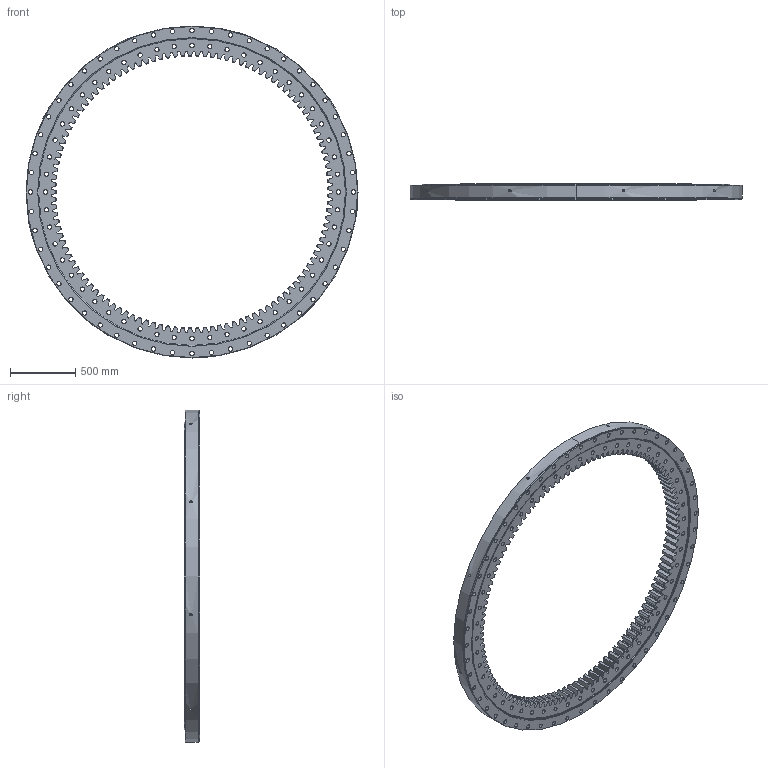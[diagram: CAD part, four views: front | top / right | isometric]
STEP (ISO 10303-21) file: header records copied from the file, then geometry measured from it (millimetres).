
FILE_DESCRIPTION (( 'STEP AP214' ), '1' );
FILE_NAME ('SM2145-1-2549AA.STEP', '2022-11-24T07:43:40', ( '' ), ( '' ), 'SwSTEP 2.0', 'SolidWorks 2020', '' );
FILE_SCHEMA (( 'AUTOMOTIVE_DESIGN' ));
Length unit declared in the file: millimetre
Products named in the file (1): SM2145-1-2549AA
Bounding box: 2549 x 120 x 2549 mm (x, y, z)
Volume: 159852080.6 mm3; surface area: 8732734.3 mm2
Topology: 4 solids, 4 shells, 1139 faces, 3325 edges, 2214 vertices
Faces by surface type: plane 496, cylinder 399, cone 244
Entity records: 40466 total; most frequent: CARTESIAN_POINT 9991, ORIENTED_EDGE 6650, DIRECTION 5976, EDGE_CURVE 3325, VERTEX_POINT 2214, AXIS2_PLACEMENT_3D 2140, LINE 1696, VECTOR 1696
